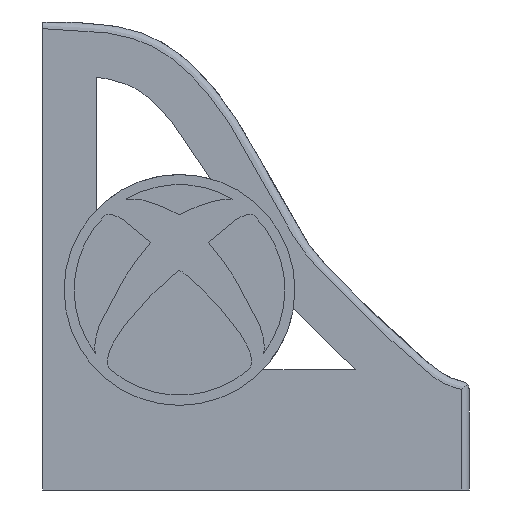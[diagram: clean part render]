
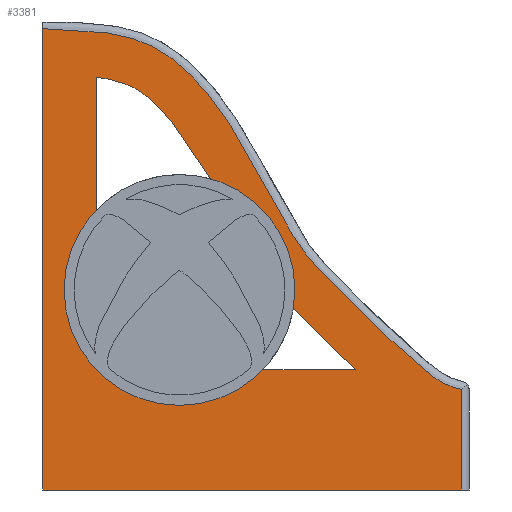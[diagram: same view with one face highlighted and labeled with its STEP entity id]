
A CAD part, left-side view. The second image highlights one B-rep face of the part: STEP entity #3381.
In plain terms, the highlighted planar face has unit normal (-1, 0, 0).
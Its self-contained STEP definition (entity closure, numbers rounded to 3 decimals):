
#479=VECTOR('',#1167,1.);
#481=VECTOR('',#1174,1.);
#482=VECTOR('',#1175,1.);
#483=VECTOR('',#1178,1.);
#484=VECTOR('',#1179,1.);
#728=LINE('',#4140,#479);
#730=LINE('',#4526,#481);
#731=LINE('',#4528,#482);
#732=LINE('',#4578,#483);
#733=LINE('',#4582,#484);
#969=CIRCLE('',#1011,43.243);
#1010=AXIS2_PLACEMENT_3D('',#4525,#1173,$);
#1011=AXIS2_PLACEMENT_3D('',#4529,#1176,#1177);
#1167=DIRECTION('',(0.,0.,-1.));
#1173=DIRECTION('',(-1.,0.,0.));
#1174=DIRECTION('',(0.,0.,1.));
#1175=DIRECTION('',(0.,1.,0.));
#1176=DIRECTION('',(1.,0.,0.));
#1177=DIRECTION('',(0.,0.,-43.243));
#1178=DIRECTION('',(0.,-1.,0.));
#1179=DIRECTION('',(0.,0.,-1.));
#1608=PLANE('',#1010);
#1709=VERTEX_POINT('',#4139);
#1710=VERTEX_POINT('',#4141);
#1716=VERTEX_POINT('',#4486);
#1717=VERTEX_POINT('',#4527);
#1718=VERTEX_POINT('',#4530);
#1719=VERTEX_POINT('',#4531);
#1720=VERTEX_POINT('',#4577);
#1721=VERTEX_POINT('',#4579);
#1722=VERTEX_POINT('',#4580);
#1723=VERTEX_POINT('',#4581);
#1945=B_SPLINE_CURVE_WITH_KNOTS('',3,(#4487,#4488,#4489,#4490,#4491,#4492,
#4493,#4494,#4495,#4496,#4497,#4498,#4499,#4500,#4501,#4502,#4503,#4504,
#4505,#4506,#4507,#4508,#4509,#4510,#4511,#4512,#4513,#4514,#4515,#4516,
#4517,#4518,#4519,#4520,#4521,#4522,#4523,#4524),.UNSPECIFIED.,.F.,.U.,
(4,2,2,2,2,2,2,2,2,2,2,2,2,2,2,2,2,2,4),(-1.041,-0.688,
-0.264,0.,1.392,3.665,5.271,
6.876,8.992,10.314,11.637,13.752,
16.057,18.538,19.583,20.106,20.628,
20.893,20.965),.UNSPECIFIED.);
#1946=B_SPLINE_CURVE_WITH_KNOTS('',5,(#4532,#4533,#4534,#4535,#4536,#4537,
#4538,#4539,#4540,#4541,#4542,#4543,#4544,#4545,#4546,#4547,#4548,#4549,
#4550,#4551,#4552,#4553,#4554,#4555,#4556,#4557,#4558,#4559,#4560,#4561,
#4562,#4563,#4564,#4565,#4566,#4567,#4568,#4569,#4570,#4571,#4572,#4573,
#4574,#4575,#4576),.UNSPECIFIED.,.F.,.U.,(6,4,4,4,3,4,4,4,4,4,4,6),(-0.055,
-0.018,0.069,0.155,0.197,
0.238,0.327,0.414,0.5,
0.58,0.659,0.686),.UNSPECIFIED.);
#2014=EDGE_CURVE('',#1709,#1710,#728,.T.);
#2022=EDGE_CURVE('',#1716,#1709,#1945,.T.);
#2023=EDGE_CURVE('',#1717,#1716,#730,.T.);
#2024=EDGE_CURVE('',#1710,#1717,#731,.T.);
#2025=EDGE_CURVE('',#1718,#1719,#969,.T.);
#2026=EDGE_CURVE('',#1720,#1718,#1946,.T.);
#2027=EDGE_CURVE('',#1719,#1720,#732,.T.);
#2028=EDGE_CURVE('',#1721,#1722,#1946,.T.);
#2029=EDGE_CURVE('',#1723,#1721,#969,.T.);
#2030=EDGE_CURVE('',#1722,#1723,#733,.T.);
#2397=ORIENTED_EDGE('',*,*,#2014,.F.);
#2398=ORIENTED_EDGE('',*,*,#2022,.F.);
#2399=ORIENTED_EDGE('',*,*,#2023,.F.);
#2400=ORIENTED_EDGE('',*,*,#2024,.F.);
#2401=ORIENTED_EDGE('',*,*,#2025,.F.);
#2402=ORIENTED_EDGE('',*,*,#2026,.F.);
#2403=ORIENTED_EDGE('',*,*,#2027,.F.);
#2404=ORIENTED_EDGE('',*,*,#2028,.F.);
#2405=ORIENTED_EDGE('',*,*,#2029,.F.);
#2406=ORIENTED_EDGE('',*,*,#2030,.F.);
#3081=EDGE_LOOP('',(#2397,#2398,#2399,#2400));
#3082=EDGE_LOOP('',(#2401,#2402,#2403));
#3083=EDGE_LOOP('',(#2404,#2405,#2406));
#3232=FACE_BOUND('',#3081,.T.);
#3233=FACE_BOUND('',#3082,.T.);
#3234=FACE_BOUND('',#3083,.T.);
#3381=ADVANCED_FACE('',(#3232,#3233,#3234),#1608,.T.);
#4139=CARTESIAN_POINT('',(-10.,-7.,27.64));
#4140=CARTESIAN_POINT('',(-10.,-7.,0.));
#4141=CARTESIAN_POINT('',(-10.,-7.,-10.));
#4486=CARTESIAN_POINT('',(-10.,149.7,162.831));
#4487=CARTESIAN_POINT('',(-10.,149.7,162.831));
#4488=CARTESIAN_POINT('',(-10.,148.524,162.773));
#4489=CARTESIAN_POINT('',(-10.,147.348,162.716));
#4490=CARTESIAN_POINT('',(-10.,144.763,162.589));
#4491=CARTESIAN_POINT('',(-10.,143.354,162.52));
#4492=CARTESIAN_POINT('',(-10.,141.065,162.408));
#4493=CARTESIAN_POINT('',(-10.,140.184,162.365));
#4494=CARTESIAN_POINT('',(-10.,134.671,162.096));
#4495=CARTESIAN_POINT('',(-10.,130.042,161.878));
#4496=CARTESIAN_POINT('',(-10.,117.888,160.138));
#4497=CARTESIAN_POINT('',(-10.,110.488,157.721));
#4498=CARTESIAN_POINT('',(-10.,99.564,150.683));
#4499=CARTESIAN_POINT('',(-10.,95.533,146.941));
#4500=CARTESIAN_POINT('',(-10.,88.241,139.101));
#4501=CARTESIAN_POINT('',(-10.,84.953,134.875));
#4502=CARTESIAN_POINT('',(-10.,77.902,124.654));
#4503=CARTESIAN_POINT('',(-10.,74.228,118.58));
#4504=CARTESIAN_POINT('',(-10.,68.497,108.576));
#4505=CARTESIAN_POINT('',(-10.,66.395,104.674));
#4506=CARTESIAN_POINT('',(-10.,62.31,96.862));
#4507=CARTESIAN_POINT('',(-10.,60.3,92.922));
#4508=CARTESIAN_POINT('',(-10.,54.632,82.848));
#4509=CARTESIAN_POINT('',(-10.,50.476,76.979));
#4510=CARTESIAN_POINT('',(-10.,40.218,66.156));
#4511=CARTESIAN_POINT('',(-10.,34.793,60.715));
#4512=CARTESIAN_POINT('',(-10.,23.275,49.556));
#4513=CARTESIAN_POINT('',(-10.,16.951,43.891));
#4514=CARTESIAN_POINT('',(-10.,8.211,36.156));
#4515=CARTESIAN_POINT('',(-10.,5.623,33.872));
#4516=CARTESIAN_POINT('',(-10.,1.331,30.947));
#4517=CARTESIAN_POINT('',(-10.,-0.185,30.085));
#4518=CARTESIAN_POINT('',(-10.,-3.381,28.688));
#4519=CARTESIAN_POINT('',(-10.,-5.048,28.136));
#4520=CARTESIAN_POINT('',(-10.,-7.591,27.49));
#4521=CARTESIAN_POINT('',(-10.,-8.446,27.273));
#4522=CARTESIAN_POINT('',(-10.,-9.533,26.997));
#4523=CARTESIAN_POINT('',(-10.,-9.767,26.938));
#4524=CARTESIAN_POINT('',(-10.,-10.,26.879));
#4525=CARTESIAN_POINT('',(-10.,69.85,0.));
#4526=CARTESIAN_POINT('',(-10.,149.7,0.));
#4527=CARTESIAN_POINT('',(-10.,149.7,-10.));
#4528=CARTESIAN_POINT('',(-10.,69.85,-10.));
#4529=CARTESIAN_POINT('',(-10.,98.506,64.949));
#4530=CARTESIAN_POINT('',(-10.,55.832,57.951));
#4531=CARTESIAN_POINT('',(-10.,67.311,35.));
#4532=CARTESIAN_POINT('',(-10.,32.477,35.));
#4533=CARTESIAN_POINT('',(-10.,33.902,36.312));
#4534=CARTESIAN_POINT('',(-10.,35.319,37.631));
#4535=CARTESIAN_POINT('',(-10.,36.72,38.949));
#4536=CARTESIAN_POINT('',(-10.,38.098,40.261));
#4537=CARTESIAN_POINT('',(-10.,42.622,44.619));
#4538=CARTESIAN_POINT('',(-10.,45.574,47.55));
#4539=CARTESIAN_POINT('',(-10.,48.33,50.342));
#4540=CARTESIAN_POINT('',(-10.,50.92,52.98));
#4541=CARTESIAN_POINT('',(-10.,55.801,57.913));
#4542=CARTESIAN_POINT('',(-10.,58.462,60.584));
#4543=CARTESIAN_POINT('',(-10.,61.438,63.713));
#4544=CARTESIAN_POINT('',(-10.,64.467,67.422));
#4545=CARTESIAN_POINT('',(-10.,68.837,73.804));
#4546=CARTESIAN_POINT('',(-10.,70.149,75.887));
#4547=CARTESIAN_POINT('',(-10.,71.39,77.97));
#4548=CARTESIAN_POINT('',(-10.,73.74,82.092));
#4549=CARTESIAN_POINT('',(-10.,75.832,86.009));
#4550=CARTESIAN_POINT('',(-10.,76.813,87.886));
#4551=CARTESIAN_POINT('',(-10.,77.726,89.645));
#4552=CARTESIAN_POINT('',(-10.,80.321,94.631));
#4553=CARTESIAN_POINT('',(-10.,81.816,97.471));
#4554=CARTESIAN_POINT('',(-10.,83.202,100.029));
#4555=CARTESIAN_POINT('',(-10.,84.735,102.76));
#4556=CARTESIAN_POINT('',(-10.,88.479,109.186));
#4557=CARTESIAN_POINT('',(-10.,90.618,112.763));
#4558=CARTESIAN_POINT('',(-10.,92.923,116.466));
#4559=CARTESIAN_POINT('',(-10.,95.29,120.018));
#4560=CARTESIAN_POINT('',(-10.,99.64,126.028));
#4561=CARTESIAN_POINT('',(-10.,101.76,128.679));
#4562=CARTESIAN_POINT('',(-10.,103.825,131.019));
#4563=CARTESIAN_POINT('',(-10.,105.83,133.08));
#4564=CARTESIAN_POINT('',(-10.,109.584,136.587));
#4565=CARTESIAN_POINT('',(-10.,111.188,137.924));
#4566=CARTESIAN_POINT('',(-10.,112.636,138.96));
#4567=CARTESIAN_POINT('',(-10.,114.077,139.863));
#4568=CARTESIAN_POINT('',(-10.,117.327,141.523));
#4569=CARTESIAN_POINT('',(-10.,119.216,142.328));
#4570=CARTESIAN_POINT('',(-10.,121.294,143.035));
#4571=CARTESIAN_POINT('',(-10.,123.472,143.608));
#4572=CARTESIAN_POINT('',(-10.,126.398,144.169));
#4573=CARTESIAN_POINT('',(-10.,127.171,144.299));
#4574=CARTESIAN_POINT('',(-10.,127.98,144.419));
#4575=CARTESIAN_POINT('',(-10.,128.823,144.527));
#4576=CARTESIAN_POINT('',(-10.,129.7,144.626));
#4577=CARTESIAN_POINT('',(-10.,32.477,35.));
#4578=CARTESIAN_POINT('',(-10.,75.469,35.));
#4579=CARTESIAN_POINT('',(-10.,86.991,106.631));
#4580=CARTESIAN_POINT('',(-10.,129.7,144.626));
#4581=CARTESIAN_POINT('',(-10.,129.7,94.897));
#4582=CARTESIAN_POINT('',(-10.,129.7,44.907));
